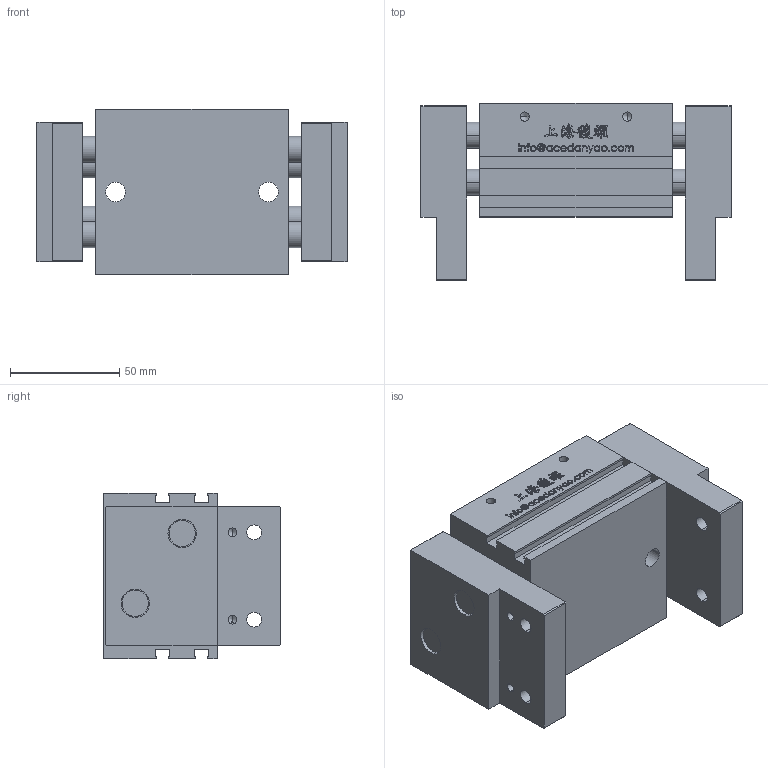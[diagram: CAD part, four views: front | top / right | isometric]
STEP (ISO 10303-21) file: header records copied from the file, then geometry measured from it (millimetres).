
FILE_DESCRIPTION (( 'STEP AP203' ), '1' );
FILE_NAME ('PLE-25-C-25+25-原始檔-組合-W106.04.20.STEP', '2017-04-20T06:22:11', ( 'DanyaoCAD' ), ( '' ), 'SwSTEP 2.0', 'SolidWorks 2016', '' );
FILE_SCHEMA (( 'CONFIG_CONTROL_DESIGN' ));
Length unit declared in the file: millimetre
Products named in the file (3): Corpo PLE-25; PLE-25-C-25+25-原始檔-組合-W106.04.20; Griffa
Assembly tree (3 placements, depth 2):
  PLE-25-C-25+25-原始檔-組合-W106.04.20
    Griffa  x2
    Corpo PLE-25
Bounding box: 142 x 81 x 76 mm (x, y, z)
Volume: 515831.6 mm3; surface area: 105490.2 mm2
Topology: 3 solids, 3 shells, 966 faces, 2700 edges, 1779 vertices
Faces by surface type: bspline 640, plane 222, cylinder 74, cone 30
Entity records: 46379 total; most frequent: CARTESIAN_POINT 26439, ORIENTED_EDGE 5184, EDGE_CURVE 2592, DIRECTION 2022, VERTEX_POINT 1725, B_SPLINE_CURVE_WITH_KNOTS 1288, LINE 1182, VECTOR 1182
